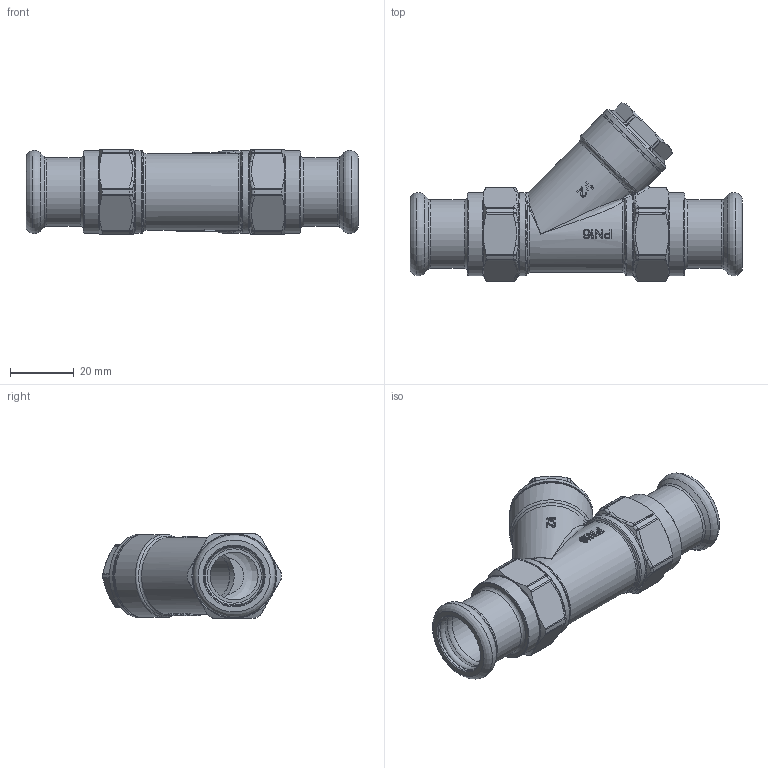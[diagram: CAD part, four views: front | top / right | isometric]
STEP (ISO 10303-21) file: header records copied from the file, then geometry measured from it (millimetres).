
FILE_DESCRIPTION((''),'2;1');
FILE_NAME('P:\Fastrack\53972_CRANE 3D\Press Fit\FIG_817-PF\Fig817-PF_18MM\Fig817-PF_18MM.stp','2012-02-08T14:35:07',('dcole'),(''),'Autodesk Inventor 2008','Autodesk Inventor 2008','');
FILE_SCHEMA(('AUTOMOTIVE_DESIGN { 1 0 10303 214 1 1 1 1 }'));
Length unit declared in the file: millimetre
Products named in the file (1): Fig817-PF_18MM
Bounding box: 104 x 55.93 x 26.5 mm (x, y, z)
Volume: 29265.5 mm3; surface area: 25260.8 mm2
Topology: 1 solids, 2 shells, 545 faces, 1359 edges, 827 vertices
Faces by surface type: bspline 185, plane 129, cylinder 105, cone 52, torus 50, sphere 24
Full cylindrical faces by diameter (mm): 14 x1, 14.6 x1, 15 x1, 15.2 x1, 16 x1, 16.5 x2, 18.2 x2, 18.4 x1, 18.631 x2, 18.8 x2, 19.6 x1, 19.835 x1, 21.45 x2, 22 x1, 22.1 x2, 22.4 x1, 25.5 x1, 26 x5
Entity records: 24012 total; most frequent: CARTESIAN_POINT 11973, ORIENTED_EDGE 2476, DIRECTION 2133, EDGE_CURVE 1238, AXIS2_PLACEMENT_3D 888, VERTEX_POINT 805, EDGE_LOOP 657, FACE_OUTER_BOUND 545
